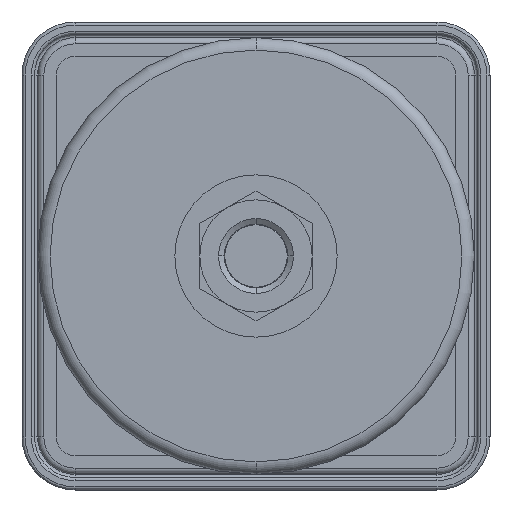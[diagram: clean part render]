
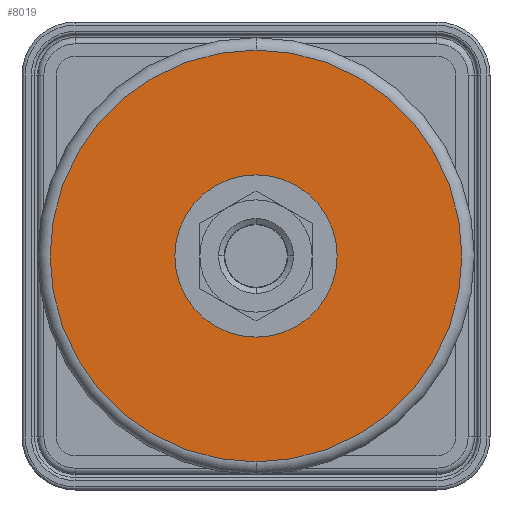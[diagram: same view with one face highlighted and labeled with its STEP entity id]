
A CAD part, front view. The second image highlights one B-rep face of the part: STEP entity #8019.
In plain terms, the highlighted planar face has unit normal (0, -1, 0).
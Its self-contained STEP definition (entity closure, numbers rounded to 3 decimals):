
#389 = CARTESIAN_POINT ( 'NONE',  ( 0., -18., 0. ) ) ;
#417 = AXIS2_PLACEMENT_3D ( 'NONE', #2920, #5726, #1559 ) ;
#896 = VERTEX_POINT ( 'NONE', #2705 ) ;
#1066 = DIRECTION ( 'NONE',  ( 0., 0., -1. ) ) ;
#1346 = ORIENTED_EDGE ( 'NONE', *, *, #8688, .F. ) ;
#1559 = DIRECTION ( 'NONE',  ( 0., 0., -1. ) ) ;
#1565 = AXIS2_PLACEMENT_3D ( 'NONE', #3054, #7944, #3751 ) ;
#1614 = DIRECTION ( 'NONE',  ( 0., -1., 0. ) ) ;
#1852 = EDGE_CURVE ( 'NONE', #5388, #3987, #8978, .T. ) ;
#2270 = CARTESIAN_POINT ( 'NONE',  ( 0., -18., -33. ) ) ;
#2387 = AXIS2_PLACEMENT_3D ( 'NONE', #5770, #1614, #6479 ) ;
#2705 = CARTESIAN_POINT ( 'NONE',  ( 0., -18., 13. ) ) ;
#2920 = CARTESIAN_POINT ( 'NONE',  ( 35., -18., 0. ) ) ;
#3022 = EDGE_LOOP ( 'NONE', ( #1346, #3929 ) ) ;
#3054 = CARTESIAN_POINT ( 'NONE',  ( 0., -18., 0. ) ) ;
#3381 = CARTESIAN_POINT ( 'NONE',  ( 0., -18., 33. ) ) ;
#3510 = ORIENTED_EDGE ( 'NONE', *, *, #1852, .T. ) ;
#3617 = CARTESIAN_POINT ( 'NONE',  ( 0., -18., 0. ) ) ;
#3751 = DIRECTION ( 'NONE',  ( 0., 0., -1. ) ) ;
#3929 = ORIENTED_EDGE ( 'NONE', *, *, #7996, .F. ) ;
#3987 = VERTEX_POINT ( 'NONE', #3381 ) ;
#4321 = DIRECTION ( 'NONE',  ( 0., 0., -1. ) ) ;
#4459 = AXIS2_PLACEMENT_3D ( 'NONE', #389, #5237, #1066 ) ;
#4695 = CARTESIAN_POINT ( 'NONE',  ( 0., -18., -13. ) ) ;
#4897 = FACE_OUTER_BOUND ( 'NONE', #7114, .T. ) ;
#5021 = PLANE ( 'NONE',  #417 ) ;
#5114 = CIRCLE ( 'NONE', #4459, 33. ) ;
#5237 = DIRECTION ( 'NONE',  ( 0., -1., 0. ) ) ;
#5388 = VERTEX_POINT ( 'NONE', #2270 ) ;
#5431 = CIRCLE ( 'NONE', #2387, 13. ) ;
#5526 = EDGE_CURVE ( 'NONE', #3987, #5388, #5114, .T. ) ;
#5726 = DIRECTION ( 'NONE',  ( 0., -1., 0. ) ) ;
#5770 = CARTESIAN_POINT ( 'NONE',  ( 0., -18., 0. ) ) ;
#6080 = FACE_BOUND ( 'NONE', #3022, .T. ) ;
#6295 = ORIENTED_EDGE ( 'NONE', *, *, #5526, .T. ) ;
#6306 = CIRCLE ( 'NONE', #6636, 13. ) ;
#6479 = DIRECTION ( 'NONE',  ( 0., 0., -1. ) ) ;
#6636 = AXIS2_PLACEMENT_3D ( 'NONE', #3617, #8503, #4321 ) ;
#7114 = EDGE_LOOP ( 'NONE', ( #3510, #6295 ) ) ;
#7249 = VERTEX_POINT ( 'NONE', #4695 ) ;
#7944 = DIRECTION ( 'NONE',  ( 0., -1., 0. ) ) ;
#7996 = EDGE_CURVE ( 'NONE', #896, #7249, #6306, .T. ) ;
#8019 = ADVANCED_FACE ( 'NONE', ( #4897, #6080 ), #5021, .T. ) ;
#8503 = DIRECTION ( 'NONE',  ( 0., -1., 0. ) ) ;
#8688 = EDGE_CURVE ( 'NONE', #7249, #896, #5431, .T. ) ;
#8978 = CIRCLE ( 'NONE', #1565, 33. ) ;
